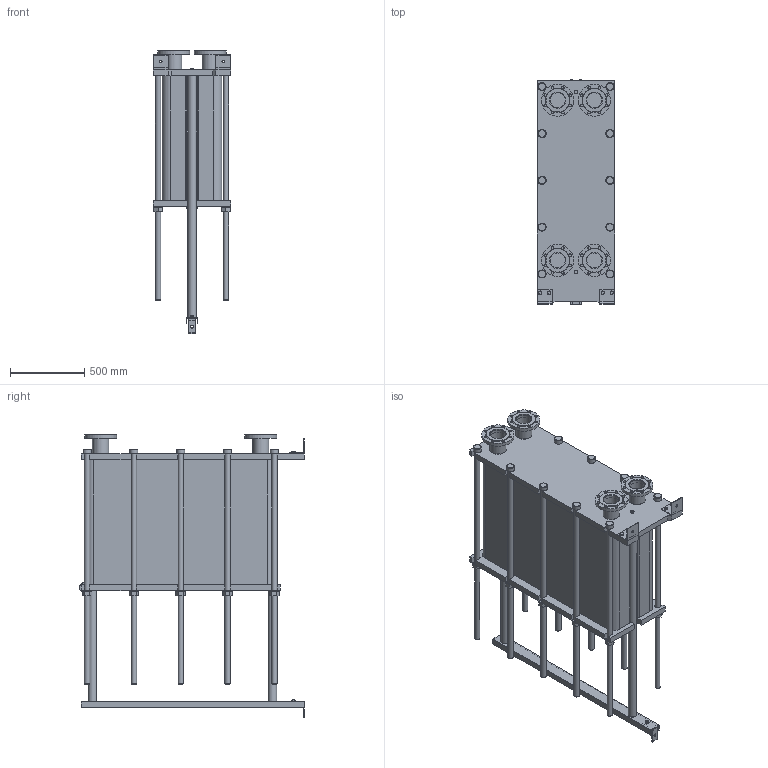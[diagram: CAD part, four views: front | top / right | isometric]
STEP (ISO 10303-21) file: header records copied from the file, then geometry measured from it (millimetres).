
FILE_DESCRIPTION(/* description */ (''),/* implementation_level */ '2;1');
FILE_NAME(/* name */ 'C:\Users\zhuro\Desktop\ENCO\TO\ЭН-04\ЭН-0,5-04-243-1.stp',/* time_stamp */ '2022-06-06T11:06:24+03:00',/* author */ ('zhuro'),/* organization */ (''),/* preprocessor_version */ 'ST-DEVELOPER v18.1',/* originating_system */ 'Autodesk Inventor 2022',/* authorisation */ '');
FILE_SCHEMA (('AUTOMOTIVE_DESIGN { 1 0 10303 214 3 1 1 }'));
Length unit declared in the file: millimetre
Products named in the file (1): ЭН-0,5-04-243-1
Bounding box: 520 x 1510 x 1901.5 mm (x, y, z)
Volume: 497874266.4 mm3; surface area: 11499845.5 mm2
Topology: 45 solids, 45 shells, 668 faces, 1611 edges, 1048 vertices
Faces by surface type: plane 457, cylinder 166, cone 39, torus 6
Full cylindrical faces by diameter (mm): 8 x4, 10 x2, 16 x8, 18 x35, 36 x25, 40 x2, 42 x1, 45 x4, 54 x10, 57 x2, 60 x10, 68 x2, 100 x4, 110 x8, 215 x4
Entity records: 23607 total; most frequent: CARTESIAN_POINT 7348, DIRECTION 3371, ORIENTED_EDGE 3142, EDGE_CURVE 1571, AXIS2_PLACEMENT_3D 1199, VERTEX_POINT 1044, LINE 973, VECTOR 973
